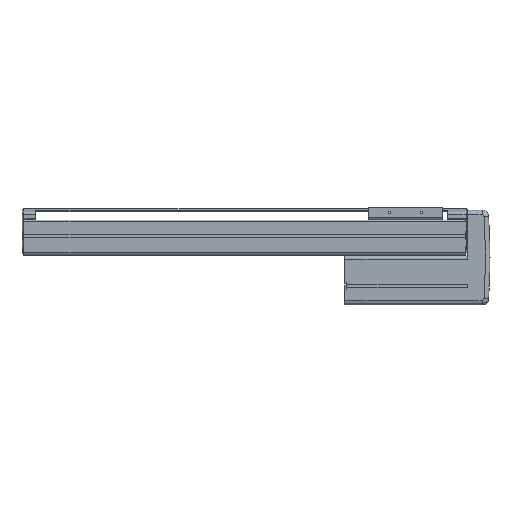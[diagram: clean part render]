
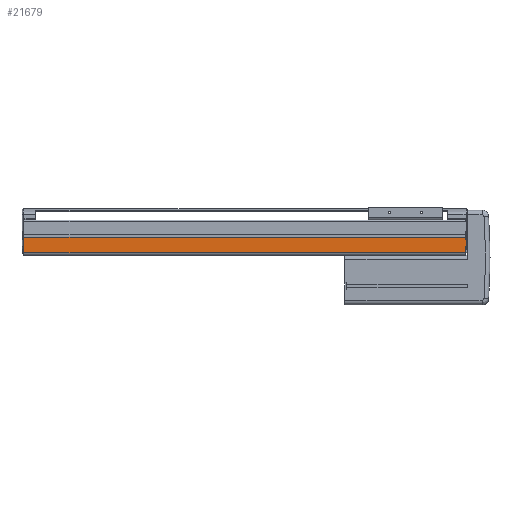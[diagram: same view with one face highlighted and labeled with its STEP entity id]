
A CAD part, top view. The second image highlights one B-rep face of the part: STEP entity #21679.
In plain terms, the highlighted planar face has unit normal (0, 0, 1).
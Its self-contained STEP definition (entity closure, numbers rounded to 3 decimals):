
#4991=DIRECTION('',(-1.,0.,0.));
#4992=VECTOR('',#4991,691.);
#4993=CARTESIAN_POINT('',(691.,28.9,39.));
#4994=LINE('',#4993,#4992);
#5003=DIRECTION('',(0.,1.,0.));
#5004=VECTOR('',#5003,3.9);
#5005=CARTESIAN_POINT('',(691.,25.,39.));
#5006=LINE('',#5005,#5004);
#5007=DIRECTION('',(0.,1.,0.));
#5008=VECTOR('',#5007,9.5);
#5009=CARTESIAN_POINT('',(691.,4.5,39.));
#5010=LINE('',#5009,#5008);
#5011=DIRECTION('',(0.,-1.,0.));
#5012=VECTOR('',#5011,24.4);
#5013=CARTESIAN_POINT('',(0.,28.9,39.));
#5014=LINE('',#5013,#5012);
#5024=DIRECTION('',(-1.,0.,0.));
#5025=VECTOR('',#5024,0.7);
#5026=CARTESIAN_POINT('',(691.7,25.,39.));
#5027=LINE('',#5026,#5025);
#5298=DIRECTION('',(1.,0.,0.));
#5299=VECTOR('',#5298,0.7);
#5300=CARTESIAN_POINT('',(691.,14.,39.));
#5301=LINE('',#5300,#5299);
#5404=DIRECTION('',(0.,1.,0.));
#5405=VECTOR('',#5404,11.);
#5406=CARTESIAN_POINT('',(691.7,14.,39.));
#5407=LINE('',#5406,#5405);
#9173=DIRECTION('',(1.,0.,0.));
#9174=VECTOR('',#9173,691.);
#9175=CARTESIAN_POINT('',(0.,4.5,39.));
#9176=LINE('',#9175,#9174);
#12991=CARTESIAN_POINT('',(0.,4.5,39.));
#12992=VERTEX_POINT('',#12991);
#12993=CARTESIAN_POINT('',(0.,28.9,39.));
#12994=VERTEX_POINT('',#12993);
#13107=CARTESIAN_POINT('',(691.,28.9,39.));
#13108=VERTEX_POINT('',#13107);
#13110=CARTESIAN_POINT('',(691.,4.5,39.));
#13112=VERTEX_POINT('',#13110);
#13970=CARTESIAN_POINT('',(691.7,14.,39.));
#13971=CARTESIAN_POINT('',(691.7,25.,39.));
#13972=VERTEX_POINT('',#13970);
#13973=VERTEX_POINT('',#13971);
#14592=CARTESIAN_POINT('',(691.,14.,39.));
#14593=VERTEX_POINT('',#14592);
#14594=CARTESIAN_POINT('',(691.,25.,39.));
#14596=VERTEX_POINT('',#14594);
#21660=CARTESIAN_POINT('',(345.5,16.7,39.));
#21661=DIRECTION('',(0.,0.,1.));
#21662=DIRECTION('',(0.,-1.,0.));
#21663=AXIS2_PLACEMENT_3D('',#21660,#21661,#21662);
#21664=PLANE('',#21663);
#21665=ORIENTED_EDGE('',*,*,#18444,.F.);
#21667=ORIENTED_EDGE('',*,*,#21666,.F.);
#21669=ORIENTED_EDGE('',*,*,#21668,.F.);
#21671=ORIENTED_EDGE('',*,*,#21670,.F.);
#21672=ORIENTED_EDGE('',*,*,#18556,.F.);
#21674=ORIENTED_EDGE('',*,*,#21673,.F.);
#21675=ORIENTED_EDGE('',*,*,#20967,.F.);
#21676=ORIENTED_EDGE('',*,*,#21653,.F.);
#21677=EDGE_LOOP('',(#21665,#21667,#21669,#21671,#21672,#21674,#21675,#21676));
#21678=FACE_OUTER_BOUND('',#21677,.F.);
#21679=ADVANCED_FACE('',(#21678),#21664,.T.);
#18444=EDGE_CURVE('',#14596,#13108,#5006,.T.);
#18556=EDGE_CURVE('',#13112,#14593,#5010,.T.);
#20967=EDGE_CURVE('',#12994,#12992,#5014,.T.);
#21653=EDGE_CURVE('',#13108,#12994,#4994,.T.);
#21666=EDGE_CURVE('',#13973,#14596,#5027,.T.);
#21668=EDGE_CURVE('',#13972,#13973,#5407,.T.);
#21670=EDGE_CURVE('',#14593,#13972,#5301,.T.);
#21673=EDGE_CURVE('',#12992,#13112,#9176,.T.);
